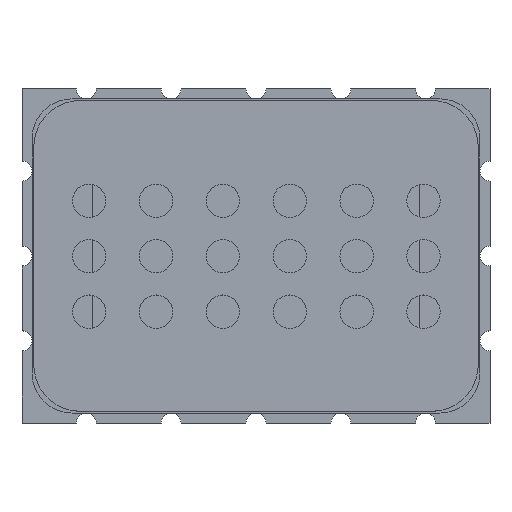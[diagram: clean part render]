
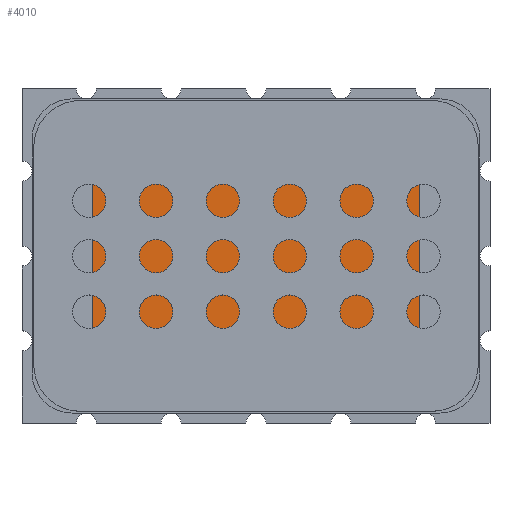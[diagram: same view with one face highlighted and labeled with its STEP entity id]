
A CAD part, top view. The second image highlights one B-rep face of the part: STEP entity #4010.
In plain terms, the highlighted planar face has unit normal (0, 0, 1).
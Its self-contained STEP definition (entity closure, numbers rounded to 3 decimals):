
#610 = EDGE_LOOP ( 'NONE', ( #2007, #2008, #2009, #2010, #2011, #2012, #2013, #2014 ) ) ;
#831 = VECTOR ( 'NONE', #1526, 1000. ) ;
#839 = CIRCLE ( 'NONE', #889, 0.1 ) ;
#889 = AXIS2_PLACEMENT_3D ( 'NONE', #1520, #1521, #1522 ) ;
#895 = CIRCLE ( 'NONE', #935, 0.1 ) ;
#935 = AXIS2_PLACEMENT_3D ( 'NONE', #1510, #1511, #1512 ) ;
#945 = CIRCLE ( 'NONE', #953, 0.1 ) ;
#953 = AXIS2_PLACEMENT_3D ( 'NONE', #1486, #1487, #1488 ) ;
#954 = VECTOR ( 'NONE', #1492, 1000. ) ;
#993 = CIRCLE ( 'NONE', #1001, 0.1 ) ;
#1001 = AXIS2_PLACEMENT_3D ( 'NONE', #1498, #1499, #1500 ) ;
#1002 = VECTOR ( 'NONE', #1504, 1000. ) ;
#1003 = VECTOR ( 'NONE', #1516, 1000. ) ;
#1486 = CARTESIAN_POINT ( 'NONE',  ( 2.75, -1.2, 0.4 ) ) ;
#1487 = DIRECTION ( 'NONE',  ( 0., 0., 1. ) ) ;
#1488 = DIRECTION ( 'NONE',  ( -1., 0., 0. ) ) ;
#1490 = LINE ( 'NONE', #1491, #954 ) ;
#1491 = CARTESIAN_POINT ( 'NONE',  ( 2.75, -1.3, 0.4 ) ) ;
#1492 = DIRECTION ( 'NONE',  ( 1., 0., 0. ) ) ;
#1498 = CARTESIAN_POINT ( 'NONE',  ( -2.75, -1.2, 0.4 ) ) ;
#1499 = DIRECTION ( 'NONE',  ( 0., 0., 1. ) ) ;
#1500 = DIRECTION ( 'NONE',  ( -1., 0., 0. ) ) ;
#1502 = LINE ( 'NONE', #1503, #1002 ) ;
#1503 = CARTESIAN_POINT ( 'NONE',  ( -2.85, 1.2, 0.4 ) ) ;
#1504 = DIRECTION ( 'NONE',  ( 0., -1., 0. ) ) ;
#1510 = CARTESIAN_POINT ( 'NONE',  ( -2.75, 1.2, 0.4 ) ) ;
#1511 = DIRECTION ( 'NONE',  ( 0., 0., 1. ) ) ;
#1512 = DIRECTION ( 'NONE',  ( 1., 0., 0. ) ) ;
#1514 = LINE ( 'NONE', #1515, #1003 ) ;
#1515 = CARTESIAN_POINT ( 'NONE',  ( 2.75, 1.3, 0.4 ) ) ;
#1516 = DIRECTION ( 'NONE',  ( -1., 0., 0. ) ) ;
#1520 = CARTESIAN_POINT ( 'NONE',  ( 2.75, 1.2, 0.4 ) ) ;
#1521 = DIRECTION ( 'NONE',  ( 0., 0., 1. ) ) ;
#1522 = DIRECTION ( 'NONE',  ( -1., 0., 0. ) ) ;
#1524 = LINE ( 'NONE', #1525, #831 ) ;
#1525 = CARTESIAN_POINT ( 'NONE',  ( 2.85, 1.2, 0.4 ) ) ;
#1526 = DIRECTION ( 'NONE',  ( 0., 1., 0. ) ) ;
#2007 = ORIENTED_EDGE ( 'NONE', *, *, #2462, .T. ) ;
#2008 = ORIENTED_EDGE ( 'NONE', *, *, #2476, .T. ) ;
#2009 = ORIENTED_EDGE ( 'NONE', *, *, #2474, .T. ) ;
#2010 = ORIENTED_EDGE ( 'NONE', *, *, #2472, .T. ) ;
#2011 = ORIENTED_EDGE ( 'NONE', *, *, #2470, .T. ) ;
#2012 = ORIENTED_EDGE ( 'NONE', *, *, #2468, .T. ) ;
#2013 = ORIENTED_EDGE ( 'NONE', *, *, #2466, .T. ) ;
#2014 = ORIENTED_EDGE ( 'NONE', *, *, #2464, .T. ) ;
#2462 = EDGE_CURVE ( 'NONE', #2802, #2800, #945, .T. ) ;
#2464 = EDGE_CURVE ( 'NONE', #2803, #2802, #1490, .T. ) ;
#2466 = EDGE_CURVE ( 'NONE', #2798, #2803, #993, .T. ) ;
#2468 = EDGE_CURVE ( 'NONE', #2797, #2798, #1502, .T. ) ;
#2470 = EDGE_CURVE ( 'NONE', #2796, #2797, #895, .T. ) ;
#2472 = EDGE_CURVE ( 'NONE', #2795, #2796, #1514, .T. ) ;
#2474 = EDGE_CURVE ( 'NONE', #2794, #2795, #839, .T. ) ;
#2476 = EDGE_CURVE ( 'NONE', #2800, #2794, #1524, .T. ) ;
#2794 = VERTEX_POINT ( 'NONE', #3428 ) ;
#2795 = VERTEX_POINT ( 'NONE', #3429 ) ;
#2796 = VERTEX_POINT ( 'NONE', #3430 ) ;
#2797 = VERTEX_POINT ( 'NONE', #3431 ) ;
#2798 = VERTEX_POINT ( 'NONE', #3432 ) ;
#2800 = VERTEX_POINT ( 'NONE', #3434 ) ;
#2802 = VERTEX_POINT ( 'NONE', #3436 ) ;
#2803 = VERTEX_POINT ( 'NONE', #3437 ) ;
#3428 = CARTESIAN_POINT ( 'NONE',  ( 2.85, 1.2, 0.4 ) ) ;
#3429 = CARTESIAN_POINT ( 'NONE',  ( 2.75, 1.3, 0.4 ) ) ;
#3430 = CARTESIAN_POINT ( 'NONE',  ( -2.75, 1.3, 0.4 ) ) ;
#3431 = CARTESIAN_POINT ( 'NONE',  ( -2.85, 1.2, 0.4 ) ) ;
#3432 = CARTESIAN_POINT ( 'NONE',  ( -2.85, -1.2, 0.4 ) ) ;
#3434 = CARTESIAN_POINT ( 'NONE',  ( 2.85, -1.2, 0.4 ) ) ;
#3436 = CARTESIAN_POINT ( 'NONE',  ( 2.75, -1.3, 0.4 ) ) ;
#3437 = CARTESIAN_POINT ( 'NONE',  ( -2.75, -1.3, 0.4 ) ) ;
#4010 = ADVANCED_FACE ( 'NONE', ( #4757 ), #4758, .F. ) ;
#4330 = AXIS2_PLACEMENT_3D ( 'NONE', #4753, #4760, #4761 ) ;
#4753 = CARTESIAN_POINT ( 'NONE',  ( 2.75, -1.2, 0.4 ) ) ;
#4757 = FACE_OUTER_BOUND ( 'NONE', #610, .T. ) ;
#4758 = PLANE ( 'NONE',  #4330 ) ;
#4760 = DIRECTION ( 'NONE',  ( 0., 0., -1. ) ) ;
#4761 = DIRECTION ( 'NONE',  ( -1., 0., 0. ) ) ;
